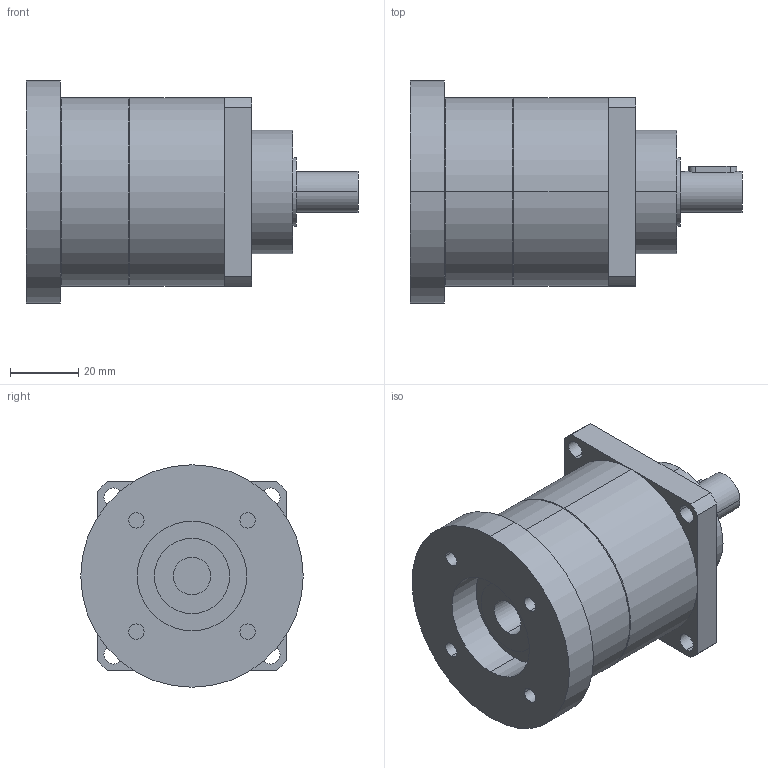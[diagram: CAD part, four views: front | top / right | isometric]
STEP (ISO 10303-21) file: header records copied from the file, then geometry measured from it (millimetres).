
FILE_DESCRIPTION(('CoCreate Modeling STEP Export'),'2;1');
FILE_NAME('GPT55_ig-3-4-5-7-10_12_B5A_11_P12.stp','2014-08-25T14:31:20',(''),(''),'CoCreate Modeling STEP processor for AP214 (Solid Model)','CoCreate Modeling 16.00C 25-Feb-2009 (C) Parametric Technology GmbH','');
FILE_SCHEMA(('AUTOMOTIVE_DESIGN { 1 0 10303 214 1 1 1 1 }'));
Length unit declared in the file: millimetre
Products named in the file (2): GPT55_ig-3-4-5-7-10_12_B5A_11_P12
Assembly tree (1 placements, depth 2):
  GPT55_ig-3-4-5-7-10_12_B5A_11_P12
    GPT55_ig-3-4-5-7-10_12_B5A_11_P12
Bounding box: 97 x 65 x 65 mm (x, y, z)
Volume: 175329.9 mm3; surface area: 25312.5 mm2
Topology: 1 solids, 1 shells, 72 faces, 180 edges, 123 vertices
Faces by surface type: cylinder 42, plane 26, cone 4
Entity records: 2237 total; most frequent: CARTESIAN_POINT 661, ORIENTED_EDGE 360, DIRECTION 268, EDGE_CURVE 180, VERTEX_POINT 123, AXIS2_PLACEMENT_3D 100, EDGE_LOOP 93, FACE_OUTER_BOUND 72
